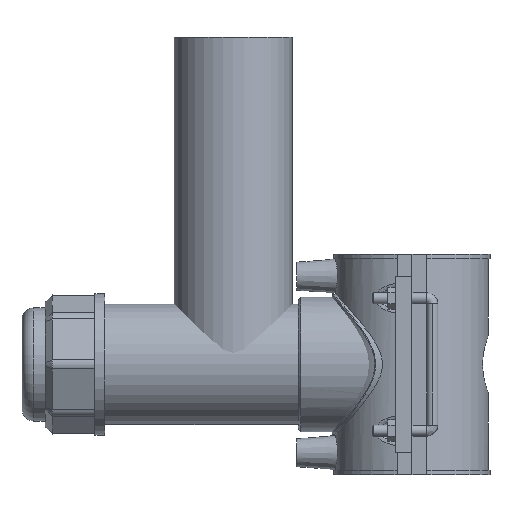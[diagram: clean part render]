
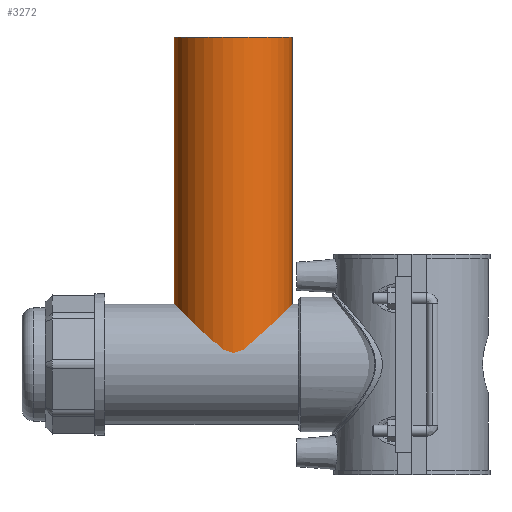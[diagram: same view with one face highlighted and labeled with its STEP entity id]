
A CAD part, left-side view. The second image highlights one B-rep face of the part: STEP entity #3272.
In plain terms, the highlighted cylindrical face has radius 31.5 mm (diameter 63 mm), a full revolution.
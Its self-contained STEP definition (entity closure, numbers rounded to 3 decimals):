
#395=FACE_OUTER_BOUND('',#604,.T.);
#604=EDGE_LOOP('',(#3025,#3026,#3027,#3028,#3029,#3030));
#738=CIRCLE('',#3597,31.5);
#739=CIRCLE('',#3598,31.5);
#740=CIRCLE('',#3599,31.5);
#741=CIRCLE('',#3600,31.5);
#1041=LINE('',#6633,#1338);
#1338=VECTOR('',#4507,31.5);
#1636=VERTEX_POINT('',#6628);
#1637=VERTEX_POINT('',#6629);
#1638=VERTEX_POINT('',#6632);
#1639=VERTEX_POINT('',#6634);
#2101=EDGE_CURVE('',#1636,#1637,#738,.T.);
#2102=EDGE_CURVE('',#1637,#1636,#739,.T.);
#2103=EDGE_CURVE('',#1637,#1638,#1041,.T.);
#2104=EDGE_CURVE('',#1638,#1639,#740,.T.);
#2105=EDGE_CURVE('',#1639,#1638,#741,.T.);
#3025=ORIENTED_EDGE('',*,*,#2101,.F.);
#3026=ORIENTED_EDGE('',*,*,#2102,.F.);
#3027=ORIENTED_EDGE('',*,*,#2103,.T.);
#3028=ORIENTED_EDGE('',*,*,#2104,.T.);
#3029=ORIENTED_EDGE('',*,*,#2105,.T.);
#3030=ORIENTED_EDGE('',*,*,#2103,.F.);
#3091=CYLINDRICAL_SURFACE('',#3596,31.5);
#3272=ADVANCED_FACE('',(#395),#3091,.T.);
#3596=AXIS2_PLACEMENT_3D('',#6627,#4501,#4502);
#3597=AXIS2_PLACEMENT_3D('',#6630,#4503,#4504);
#3598=AXIS2_PLACEMENT_3D('',#6631,#4505,#4506);
#3599=AXIS2_PLACEMENT_3D('',#6635,#4508,#4509);
#3600=AXIS2_PLACEMENT_3D('',#6636,#4510,#4511);
#4501=DIRECTION('center_axis',(0.,0.,1.));
#4502=DIRECTION('ref_axis',(0.,-1.,0.));
#4503=DIRECTION('center_axis',(0.,0.,1.));
#4504=DIRECTION('ref_axis',(1.,0.,0.));
#4505=DIRECTION('center_axis',(0.,0.,1.));
#4506=DIRECTION('ref_axis',(1.,0.,0.));
#4507=DIRECTION('',(0.,0.,-1.));
#4508=DIRECTION('center_axis',(0.,0.,1.));
#4509=DIRECTION('ref_axis',(1.,0.,0.));
#4510=DIRECTION('center_axis',(0.,0.,1.));
#4511=DIRECTION('ref_axis',(1.,0.,0.));
#6627=CARTESIAN_POINT('Origin',(0.,95.5,87.5));
#6628=CARTESIAN_POINT('',(0.,64.,175.));
#6629=CARTESIAN_POINT('',(0.,127.,175.));
#6630=CARTESIAN_POINT('Origin',(0.,95.5,175.));
#6631=CARTESIAN_POINT('Origin',(0.,95.5,175.));
#6632=CARTESIAN_POINT('',(0.,127.,0.));
#6633=CARTESIAN_POINT('',(0.,127.,87.5));
#6634=CARTESIAN_POINT('',(0.,64.,0.));
#6635=CARTESIAN_POINT('Origin',(0.,95.5,0.));
#6636=CARTESIAN_POINT('Origin',(0.,95.5,0.));
